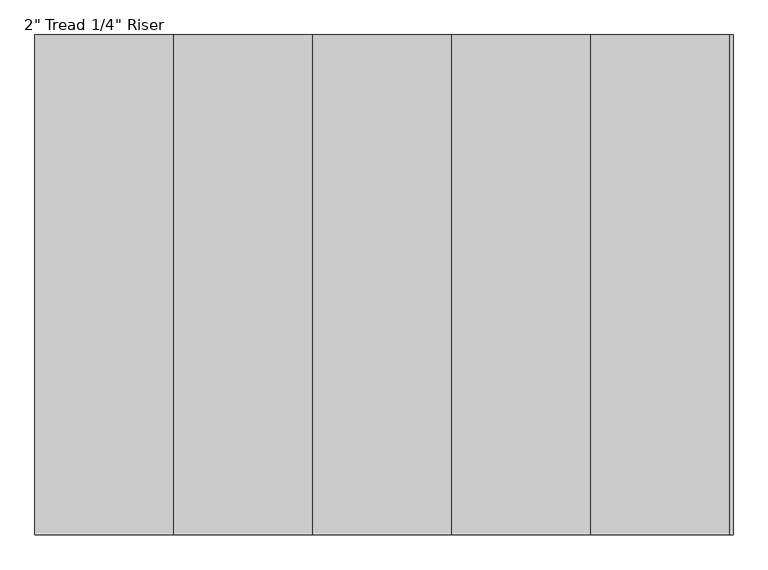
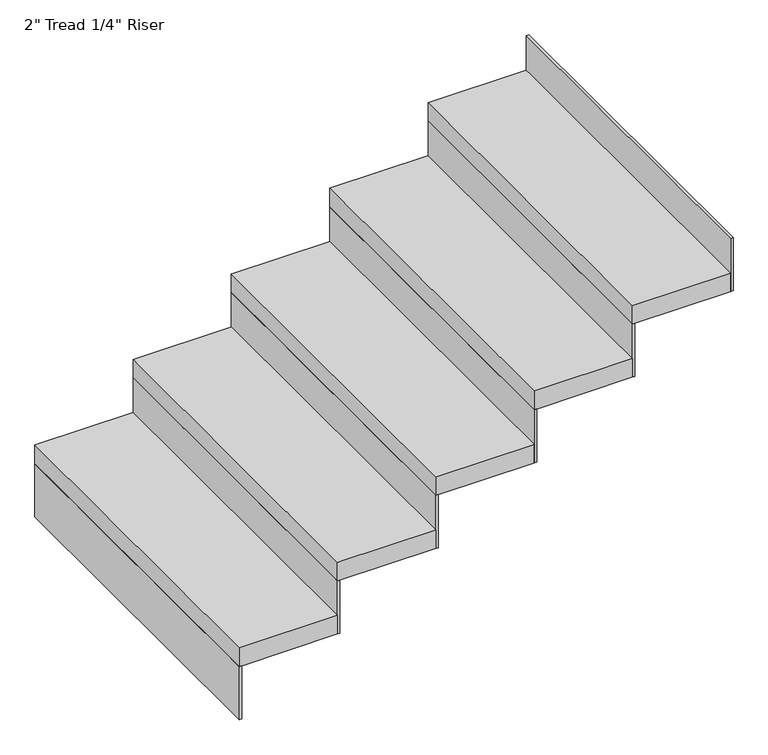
"""IFC4 building model written with IfcOpenShell, lengths in millimetres: stair flight geometry."""

from ifc_helpers import new_model, si_unit, frame, origin, place, context, project, spatial, polyline, outline, extrude, source, transform, mapped, element, save


def stair_flight_d85fa086(model_context):
    return source(origin(), model_context, "Body", "SweptSolid", [
        extrude(outline(polyline([(138179.3023809, 15846.0395941), (138172.9523809, 15846.0395941), (138172.9523809, 16760.4395941), (138179.3023809, 16760.4395941), (138179.3023809, 15846.0395941)])), frame((0.0, 0.0, 2126.3428571), z_axis=(0.0, 0.0, 1.0), x_axis=(1.0, 0.0, 0.0)), (0.0, 0.0, 1.0), 145.1428571),
        extrude(outline(polyline([(138426.9523809, 16760.4395941), (138426.9523809, 15846.0395941), (138172.9523809, 15846.0395941), (138172.9523809, 16760.4395941), (138426.9523809, 16760.4395941)])), frame((0.0, 0.0, 2271.4857143), z_axis=(0.0, 0.0, 1.0), x_axis=(1.0, 0.0, 0.0)), (0.0, 0.0, 1.0), 50.8),
        extrude(outline(polyline([(138433.3023809, 15846.0395941), (138426.9523809, 15846.0395941), (138426.9523809, 16760.4395941), (138433.3023809, 16760.4395941), (138433.3023809, 15846.0395941)])), frame((0.0, 0.0, 2271.4857143), z_axis=(0.0, 0.0, 1.0), x_axis=(1.0, 0.0, 0.0)), (0.0, 0.0, 1.0), 145.1428571),
        extrude(outline(polyline([(138680.9523809, 16760.4395941), (138680.9523809, 15846.0395941), (138426.9523809, 15846.0395941), (138426.9523809, 16760.4395941), (138680.9523809, 16760.4395941)])), frame((0.0, 0.0, 2416.6285714), z_axis=(0.0, 0.0, 1.0), x_axis=(1.0, 0.0, 0.0)), (0.0, 0.0, 1.0), 50.8),
        extrude(outline(polyline([(138687.3023809, 15846.0395941), (138680.9523809, 15846.0395941), (138680.9523809, 16760.4395941), (138687.3023809, 16760.4395941), (138687.3023809, 15846.0395941)])), frame((0.0, 0.0, 2416.6285714), z_axis=(0.0, 0.0, 1.0), x_axis=(1.0, 0.0, 0.0)), (0.0, 0.0, 1.0), 145.1428571),
        extrude(outline(polyline([(138934.9523809, 16760.4395941), (138934.9523809, 15846.0395941), (138680.9523809, 15846.0395941), (138680.9523809, 16760.4395941), (138934.9523809, 16760.4395941)])), frame((0.0, 0.0, 2561.7714286), z_axis=(0.0, 0.0, 1.0), x_axis=(1.0, 0.0, 0.0)), (0.0, 0.0, 1.0), 50.8),
        extrude(outline(polyline([(138941.3023809, 15846.0395941), (138934.9523809, 15846.0395941), (138934.9523809, 16760.4395941), (138941.3023809, 16760.4395941), (138941.3023809, 15846.0395941)])), frame((0.0, 0.0, 2561.7714286), z_axis=(0.0, 0.0, 1.0), x_axis=(1.0, 0.0, 0.0)), (0.0, 0.0, 1.0), 145.1428571),
        extrude(outline(polyline([(139188.9523809, 16760.4395941), (139188.9523809, 15846.0395941), (138934.9523809, 15846.0395941), (138934.9523809, 16760.4395941), (139188.9523809, 16760.4395941)])), frame((0.0, 0.0, 2706.9142857), z_axis=(0.0, 0.0, 1.0), x_axis=(1.0, 0.0, 0.0)), (0.0, 0.0, 1.0), 50.8),
        extrude(outline(polyline([(139195.3023809, 15846.0395941), (139188.9523809, 15846.0395941), (139188.9523809, 16760.4395941), (139195.3023809, 16760.4395941), (139195.3023809, 15846.0395941)])), frame((0.0, 0.0, 2706.9142857), z_axis=(0.0, 0.0, 1.0), x_axis=(1.0, 0.0, 0.0)), (0.0, 0.0, 1.0), 145.1428571),
        extrude(outline(polyline([(139449.3023809, 15846.0395941), (139442.9523809, 15846.0395941), (139442.9523809, 16760.4395941), (139449.3023809, 16760.4395941), (139449.3023809, 15846.0395941)])), frame((0.0, 0.0, 2852.0571429), z_axis=(0.0, 0.0, 1.0), x_axis=(1.0, 0.0, 0.0)), (0.0, 0.0, 1.0), 145.1428571),
        extrude(outline(polyline([(139442.9523809, 16760.4395941), (139442.9523809, 15846.0395941), (139188.9523809, 15846.0395941), (139188.9523809, 16760.4395941), (139442.9523809, 16760.4395941)])), frame((0.0, 0.0, 2852.0571429), z_axis=(0.0, 0.0, 1.0), x_axis=(1.0, 0.0, 0.0)), (0.0, 0.0, 1.0), 50.8),
    ])


if __name__ == "__main__":
    model = new_model("IFC4")
    model_context = context("Model", 3, world=origin())
    ifc_project = project(units=[si_unit("LENGTHUNIT", "METRE", prefix="MILLI")], contexts=[model_context])
    site = spatial("IfcSite", under=ifc_project)
    building = spatial("IfcBuilding", under=site)
    placement = place(None, origin())
    stair_flight_shape = stair_flight_d85fa086(model_context)
    element("IfcStairFlight", 1, ObjectType="2\" Tread 1/4\" Riser", at=placement, inside=building, context=model_context, shape_type="MappedRepresentation", body=[
        mapped(stair_flight_shape, transform((0.0, 0.0, 0.0), x_axis=(1.0, 0.0, 0.0), y_axis=(0.0, 1.0, 0.0), z_axis=(0.0, 0.0, 1.0))),
    ])
    save(model, "model.ifc")
